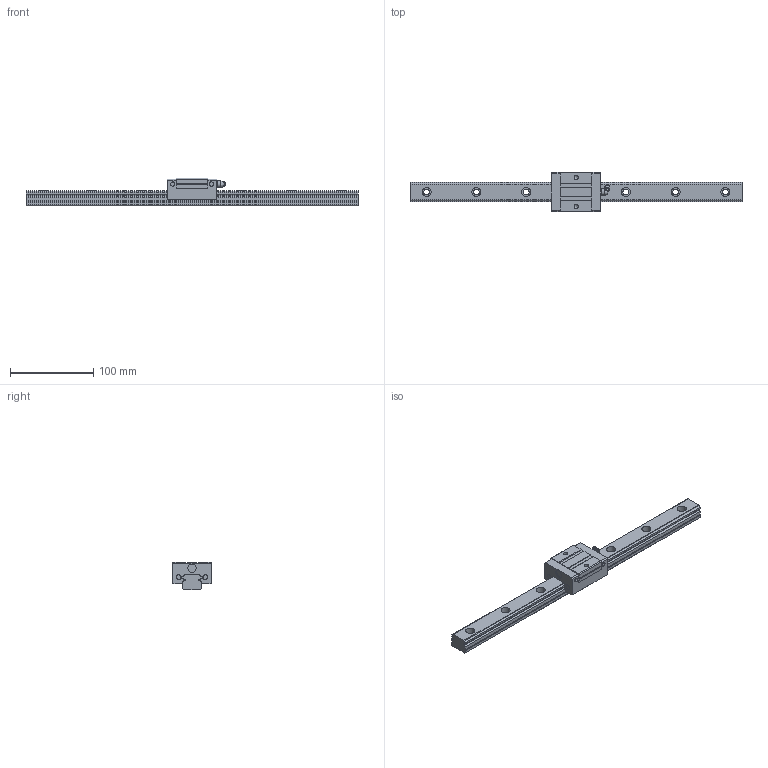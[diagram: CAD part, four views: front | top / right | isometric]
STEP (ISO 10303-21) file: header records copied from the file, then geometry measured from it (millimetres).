
FILE_DESCRIPTION((''),'2;1');
FILE_NAME('D:\製品 (図面)\カタログ用3D\リニアガイド関連\STEP形式\LGSR-S\LGSR25S.stp','2010-06-02T16:02:50',('Tsuchiya'),(''),'Autodesk Inventor 10','Autodesk Inventor 10','');
FILE_SCHEMA(('AUTOMOTIVE_DESIGN { 1 0 10303 214 1 1 1 1 }'));
Length unit declared in the file: millimetre
Products named in the file (3): LGSR25S; LGSR25S1; LGSR25S2
Assembly tree (2 placements, depth 2):
  LGSR25S
    LGSR25S1
    LGSR25S2
Bounding box: 400 x 48 x 33 mm (x, y, z)
Volume: 204447.7 mm3; surface area: 53417.4 mm2
Topology: 2 solids, 2 shells, 168 faces, 427 edges, 282 vertices
Faces by surface type: plane 93, bspline 39, cylinder 31, sphere 3, cone 2
Full cylindrical faces by diameter (mm): 5.2 x2, 5.5 x2, 6 x2, 7 x1, 7.7 x1, 10 x1
Entity records: 5382 total; most frequent: CARTESIAN_POINT 1477, DIRECTION 756, ORIENTED_EDGE 752, EDGE_CURVE 376, VERTEX_POINT 274, VECTOR 256, LINE 256, AXIS2_PLACEMENT_3D 250
